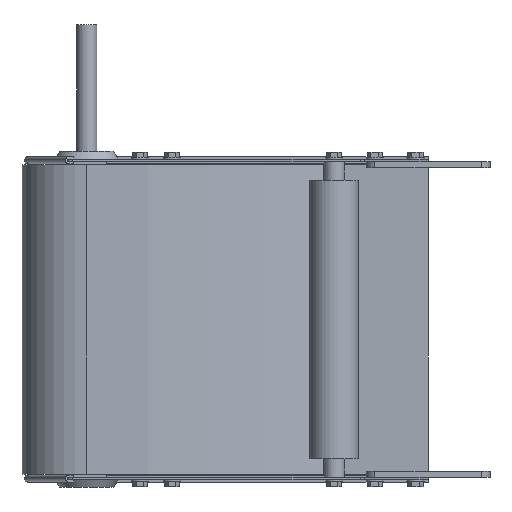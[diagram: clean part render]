
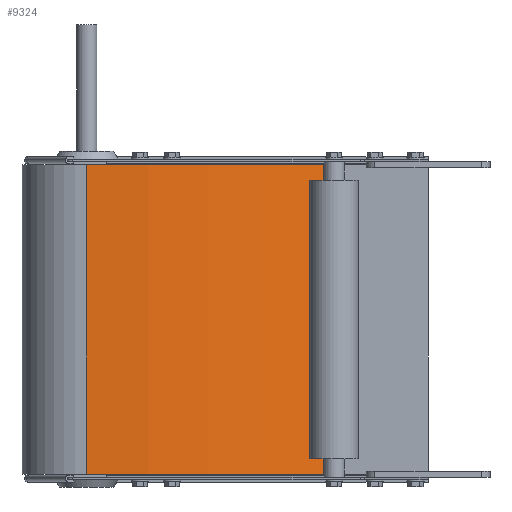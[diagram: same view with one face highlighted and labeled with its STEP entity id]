
A CAD part, front view. The second image highlights one B-rep face of the part: STEP entity #9324.
In plain terms, the highlighted cylindrical face has radius 508.8 mm (diameter 1017.6 mm), a partial arc.
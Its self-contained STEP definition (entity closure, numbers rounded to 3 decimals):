
#35 = CARTESIAN_POINT ( 'NONE',  ( 296.602, -71.429, 152.4 ) ) ;
#85 = CIRCLE ( 'NONE', #5669, 508.8 ) ;
#96 = CARTESIAN_POINT ( 'NONE',  ( 63.571, -127.4, 152.4 ) ) ;
#271 = FACE_OUTER_BOUND ( 'NONE', #1492, .T. ) ;
#1100 = VERTEX_POINT ( 'NONE', #9607 ) ;
#1372 = AXIS2_PLACEMENT_3D ( 'NONE', #2506, #3912, #7028 ) ;
#1492 = EDGE_LOOP ( 'NONE', ( #7773, #3184, #6071, #2160 ) ) ;
#2160 = ORIENTED_EDGE ( 'NONE', *, *, #4633, .T. ) ;
#2457 = CIRCLE ( 'NONE', #7898, 508.8 ) ;
#2506 = CARTESIAN_POINT ( 'NONE',  ( 64.602, 381.399, -152.4 ) ) ;
#3066 = CARTESIAN_POINT ( 'NONE',  ( 64.602, 381.399, 152.4 ) ) ;
#3160 = CARTESIAN_POINT ( 'NONE',  ( 64.602, 381.399, -152.4 ) ) ;
#3184 = ORIENTED_EDGE ( 'NONE', *, *, #5754, .F. ) ;
#3205 = DIRECTION ( 'NONE',  ( 0., 0., 1. ) ) ;
#3234 = CARTESIAN_POINT ( 'NONE',  ( 63.571, -127.4, -152.4 ) ) ;
#3912 = DIRECTION ( 'NONE',  ( 0., 0., 1. ) ) ;
#4055 = CYLINDRICAL_SURFACE ( 'NONE', #1372, 508.8 ) ;
#4633 = EDGE_CURVE ( 'NONE', #1100, #9141, #9347, .T. ) ;
#4867 = EDGE_CURVE ( 'NONE', #5175, #1100, #85, .T. ) ;
#5175 = VERTEX_POINT ( 'NONE', #3234 ) ;
#5669 = AXIS2_PLACEMENT_3D ( 'NONE', #3160, #8322, #6269 ) ;
#5694 = CARTESIAN_POINT ( 'NONE',  ( 296.602, -71.429, -152.4 ) ) ;
#5754 = EDGE_CURVE ( 'NONE', #5175, #6279, #7938, .T. ) ;
#6028 = DIRECTION ( 'NONE',  ( -1., 0., 0. ) ) ;
#6071 = ORIENTED_EDGE ( 'NONE', *, *, #4867, .T. ) ;
#6148 = VECTOR ( 'NONE', #6383, 1000. ) ;
#6269 = DIRECTION ( 'NONE',  ( -1., 0., 0. ) ) ;
#6279 = VERTEX_POINT ( 'NONE', #96 ) ;
#6383 = DIRECTION ( 'NONE',  ( 0., 0., 1. ) ) ;
#7028 = DIRECTION ( 'NONE',  ( 1., 0., 0. ) ) ;
#7773 = ORIENTED_EDGE ( 'NONE', *, *, #8267, .F. ) ;
#7898 = AXIS2_PLACEMENT_3D ( 'NONE', #3066, #3205, #6028 ) ;
#7938 = LINE ( 'NONE', #9487, #6148 ) ;
#7994 = VECTOR ( 'NONE', #8713, 1000. ) ;
#8267 = EDGE_CURVE ( 'NONE', #6279, #9141, #2457, .T. ) ;
#8322 = DIRECTION ( 'NONE',  ( 0., 0., 1. ) ) ;
#8713 = DIRECTION ( 'NONE',  ( 0., 0., 1. ) ) ;
#9141 = VERTEX_POINT ( 'NONE', #35 ) ;
#9324 = ADVANCED_FACE ( 'NONE', ( #271 ), #4055, .T. ) ;
#9347 = LINE ( 'NONE', #5694, #7994 ) ;
#9487 = CARTESIAN_POINT ( 'NONE',  ( 63.571, -127.4, -152.4 ) ) ;
#9607 = CARTESIAN_POINT ( 'NONE',  ( 296.602, -71.429, -152.4 ) ) ;
